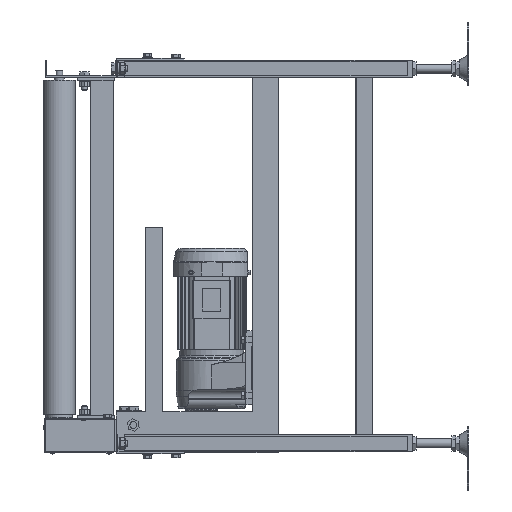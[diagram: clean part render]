
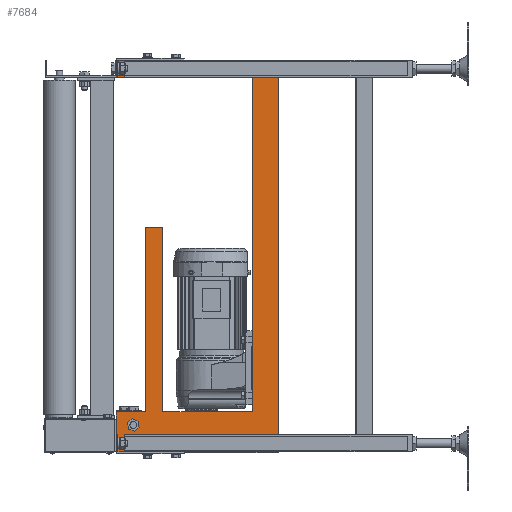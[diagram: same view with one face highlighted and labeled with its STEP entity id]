
A CAD part, left-side view. The second image highlights one B-rep face of the part: STEP entity #7684.
In plain terms, the highlighted planar face has unit normal (-1, 0, 0).
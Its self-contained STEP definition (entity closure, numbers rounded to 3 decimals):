
#7684=ADVANCED_FACE('',(#43240,#43241),#43239,.F.);
#43239=PLANE('',#62262);
#43240=FACE_OUTER_BOUND('',#62263,.T.);
#43241=FACE_BOUND('',#62264,.T.);
#62259=CARTESIAN_POINT('',(2400.,-119.,-356.6));
#62260=DIRECTION('',(1.,0.,0.));
#62261=DIRECTION('',(0.,0.,1.));
#62262=AXIS2_PLACEMENT_3D('',#62259,#62260,#62261);
#62263=EDGE_LOOP('',(#80062,#80063,#80064,#80065,#80066,#80067,#80068,#80069,#80070,#80071,#80072,#80073,#80074,#80075));
#62264=EDGE_LOOP('',(#80076,#80077,#80078,#80079,#80080,#80081));
#80062=ORIENTED_EDGE('',*,*,#89009,.F.);
#80063=ORIENTED_EDGE('',*,*,#88516,.T.);
#80064=ORIENTED_EDGE('',*,*,#88524,.T.);
#80065=ORIENTED_EDGE('',*,*,#88521,.F.);
#80066=ORIENTED_EDGE('',*,*,#88486,.T.);
#80067=ORIENTED_EDGE('',*,*,#88481,.F.);
#80068=ORIENTED_EDGE('',*,*,#88822,.T.);
#80069=ORIENTED_EDGE('',*,*,#88820,.T.);
#80070=ORIENTED_EDGE('',*,*,#88819,.T.);
#80071=ORIENTED_EDGE('',*,*,#88468,.F.);
#80072=ORIENTED_EDGE('',*,*,#88485,.F.);
#80073=ORIENTED_EDGE('',*,*,#88557,.T.);
#80074=ORIENTED_EDGE('',*,*,#88537,.F.);
#80075=ORIENTED_EDGE('',*,*,#88541,.F.);
#80076=ORIENTED_EDGE('',*,*,#88606,.T.);
#80077=ORIENTED_EDGE('',*,*,#88610,.T.);
#80078=ORIENTED_EDGE('',*,*,#88613,.T.);
#80079=ORIENTED_EDGE('',*,*,#88616,.T.);
#80080=ORIENTED_EDGE('',*,*,#88619,.T.);
#80081=ORIENTED_EDGE('',*,*,#88622,.T.);
#88468=EDGE_CURVE('',#144783,#144784,#144785,.T.);
#88481=EDGE_CURVE('',#144867,#144874,#144875,.T.);
#88485=EDGE_CURVE('',#144894,#144783,#144901,.T.);
#88486=EDGE_CURVE('',#144907,#144874,#144908,.T.);
#88516=EDGE_CURVE('',#145113,#145114,#145115,.T.);
#88521=EDGE_CURVE('',#144907,#145147,#145148,.T.);
#88524=EDGE_CURVE('',#145114,#145147,#145167,.T.);
#88537=EDGE_CURVE('',#145254,#145255,#145256,.T.);
#88541=EDGE_CURVE('',#145282,#145254,#145283,.T.);
#88557=EDGE_CURVE('',#144894,#145255,#145389,.T.);
#88606=EDGE_CURVE('',#145715,#145716,#145717,.T.);
#88610=EDGE_CURVE('',#145716,#145743,#145744,.T.);
#88613=EDGE_CURVE('',#145743,#145763,#145764,.T.);
#88616=EDGE_CURVE('',#145763,#145783,#145784,.T.);
#88619=EDGE_CURVE('',#145783,#145803,#145804,.T.);
#88622=EDGE_CURVE('',#145803,#145715,#145823,.T.);
#88819=EDGE_CURVE('',#147113,#144784,#147120,.T.);
#88820=EDGE_CURVE('',#147126,#147113,#147127,.T.);
#88822=EDGE_CURVE('',#144867,#147126,#147139,.T.);
#89009=EDGE_CURVE('',#145113,#145282,#148368,.T.);
#144783=VERTEX_POINT('',#183111);
#144784=VERTEX_POINT('',#183112);
#144785=LINE('',#183113,#183114);
#144867=VERTEX_POINT('',#183164);
#144874=VERTEX_POINT('',#183168);
#144875=LINE('',#183169,#183170);
#144894=VERTEX_POINT('',#183179);
#144901=LINE('',#183183,#183184);
#144907=VERTEX_POINT('',#183186);
#144908=LINE('',#183187,#183188);
#145113=VERTEX_POINT('',#183306);
#145114=VERTEX_POINT('',#183307);
#145115=LINE('',#183308,#183309);
#145147=VERTEX_POINT('',#183325);
#145148=LINE('',#183326,#183327);
#145167=LINE('',#183336,#183337);
#145254=VERTEX_POINT('',#183388);
#145255=VERTEX_POINT('',#183389);
#145256=LINE('',#183390,#183391);
#145282=VERTEX_POINT('',#183404);
#145283=LINE('',#183405,#183406);
#145389=LINE('',#183467,#183468);
#145715=VERTEX_POINT('',#183651);
#145716=VERTEX_POINT('',#183652);
#145717=LINE('',#183653,#183654);
#145743=VERTEX_POINT('',#183667);
#145744=LINE('',#183668,#183669);
#145763=VERTEX_POINT('',#183678);
#145764=LINE('',#183679,#183680);
#145783=VERTEX_POINT('',#183689);
#145784=LINE('',#183690,#183691);
#145803=VERTEX_POINT('',#183700);
#145804=LINE('',#183701,#183702);
#145823=LINE('',#183711,#183712);
#147113=VERTEX_POINT('',#184472);
#147120=LINE('',#184476,#184477);
#147126=VERTEX_POINT('',#184479);
#147127=LINE('',#184480,#184481);
#147139=LINE('',#184486,#184487);
#148368=LINE('',#185248,#185249);
#183111=CARTESIAN_POINT('',(2400.,-129.,-274.5));
#183112=CARTESIAN_POINT('',(2400.,-181.,-274.5));
#183113=CARTESIAN_POINT('',(2400.,-129.,-274.5));
#183114=VECTOR('',#183115,52.);
#183115=DIRECTION('',(0.,-1.,0.));
#183164=CARTESIAN_POINT('',(2400.,-211.,-274.5));
#183168=CARTESIAN_POINT('',(2400.,-369.,-274.5));
#183169=CARTESIAN_POINT('',(2400.,-211.,-274.5));
#183170=VECTOR('',#183171,158.);
#183171=DIRECTION('',(0.,-1.,0.));
#183179=CARTESIAN_POINT('',(2400.,-129.,-346.6));
#183183=CARTESIAN_POINT('',(2400.,-129.,-346.6));
#183184=VECTOR('',#183185,72.1);
#183185=DIRECTION('',(0.,0.,1.));
#183186=CARTESIAN_POINT('',(2400.,-369.,315.));
#183187=CARTESIAN_POINT('',(2400.,-369.,315.));
#183188=VECTOR('',#183189,589.5);
#183189=DIRECTION('',(0.,0.,-1.));
#183306=CARTESIAN_POINT('',(2400.,-414.,345.));
#183307=CARTESIAN_POINT('',(2400.,-129.,345.));
#183308=CARTESIAN_POINT('',(2400.,-414.,345.));
#183309=VECTOR('',#183310,285.);
#183310=DIRECTION('',(0.,1.,0.));
#183325=CARTESIAN_POINT('',(2400.,-129.,315.));
#183326=CARTESIAN_POINT('',(2400.,-369.,315.));
#183327=VECTOR('',#183328,240.);
#183328=DIRECTION('',(0.,1.,0.));
#183336=CARTESIAN_POINT('',(2400.,-129.,345.));
#183337=VECTOR('',#183338,30.);
#183338=DIRECTION('',(0.,0.,-1.));
#183388=CARTESIAN_POINT('',(2400.,-180.,-331.6));
#183389=CARTESIAN_POINT('',(2400.,-180.,-346.6));
#183390=CARTESIAN_POINT('',(2400.,-180.,-331.6));
#183391=VECTOR('',#183392,15.);
#183392=DIRECTION('',(0.,0.,-1.));
#183404=CARTESIAN_POINT('',(2400.,-414.,-331.6));
#183405=CARTESIAN_POINT('',(2400.,-414.,-331.6));
#183406=VECTOR('',#183407,234.);
#183407=DIRECTION('',(0.,1.,0.));
#183467=CARTESIAN_POINT('',(2400.,-129.,-346.6));
#183468=VECTOR('',#183469,51.);
#183469=DIRECTION('',(0.,-1.,0.));
#183651=CARTESIAN_POINT('',(2400.,-148.698,-293.932));
#183652=CARTESIAN_POINT('',(2400.,-157.112,-286.894));
#183653=CARTESIAN_POINT('',(2400.,-148.698,-293.932));
#183654=VECTOR('',#183655,10.97);
#183655=DIRECTION('',(0.,-0.767,0.642));
#183667=CARTESIAN_POINT('',(2400.,-167.415,-290.662));
#183668=CARTESIAN_POINT('',(2400.,-157.112,-286.894));
#183669=VECTOR('',#183670,10.97);
#183670=DIRECTION('',(0.,-0.939,-0.344));
#183678=CARTESIAN_POINT('',(2400.,-169.302,-301.468));
#183679=CARTESIAN_POINT('',(2400.,-167.415,-290.662));
#183680=VECTOR('',#183681,10.97);
#183681=DIRECTION('',(0.,-0.172,-0.985));
#183689=CARTESIAN_POINT('',(2400.,-160.888,-308.506));
#183690=CARTESIAN_POINT('',(2400.,-169.302,-301.468));
#183691=VECTOR('',#183692,10.97);
#183692=DIRECTION('',(0.,0.767,-0.642));
#183700=CARTESIAN_POINT('',(2400.,-150.585,-304.738));
#183701=CARTESIAN_POINT('',(2400.,-160.888,-308.506));
#183702=VECTOR('',#183703,10.97);
#183703=DIRECTION('',(0.,0.939,0.344));
#183711=CARTESIAN_POINT('',(2400.,-150.585,-304.738));
#183712=VECTOR('',#183713,10.97);
#183713=DIRECTION('',(0.,0.172,0.985));
#184472=CARTESIAN_POINT('',(2400.,-181.,50.5));
#184476=CARTESIAN_POINT('',(2400.,-181.,50.5));
#184477=VECTOR('',#184478,325.);
#184478=DIRECTION('',(0.,0.,-1.));
#184479=CARTESIAN_POINT('',(2400.,-211.,50.5));
#184480=CARTESIAN_POINT('',(2400.,-211.,50.5));
#184481=VECTOR('',#184482,30.);
#184482=DIRECTION('',(0.,1.,0.));
#184486=CARTESIAN_POINT('',(2400.,-211.,-274.5));
#184487=VECTOR('',#184488,325.);
#184488=DIRECTION('',(0.,0.,1.));
#185248=CARTESIAN_POINT('',(2400.,-414.,345.));
#185249=VECTOR('',#185250,676.6);
#185250=DIRECTION('',(0.,0.,-1.));
